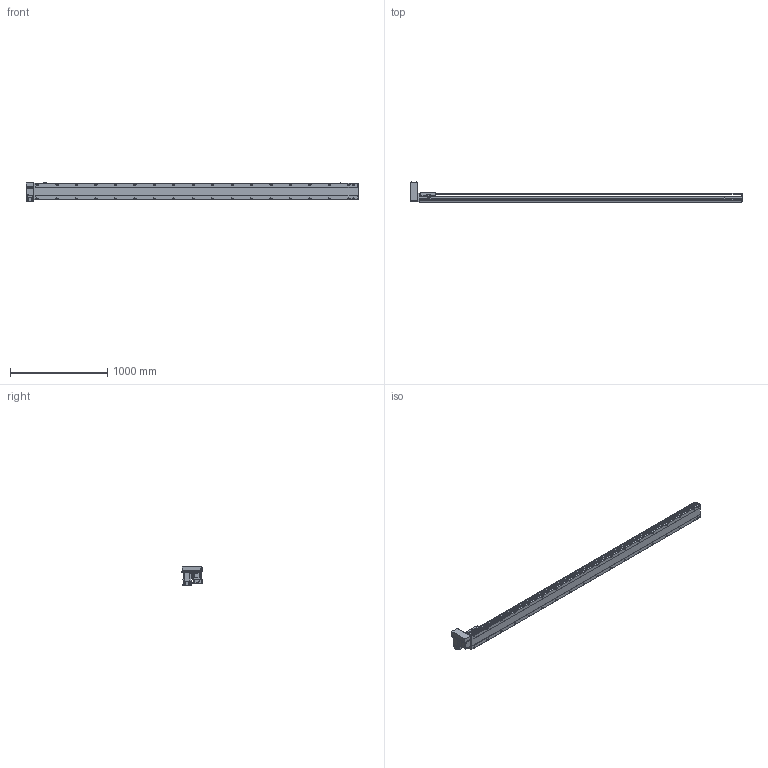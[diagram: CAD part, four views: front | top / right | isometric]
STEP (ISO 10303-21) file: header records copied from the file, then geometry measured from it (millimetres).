
FILE_DESCRIPTION(/* description */ ('STEP AP214'),/* implementation_level */ '2;1');
FILE_NAME(/* name */ 'PBS170-P40-S3050-RU-T75-C1-N(0)',/* time_stamp */ '2022-06-08T08:01:43+02:00',/* author */ ('License CC BY-ND 4.0'),/* organization */ ('CADENAS'),/* preprocessor_version */ 'ST-DEVELOPER v18.102',/* originating_system */ 'PARTsolutions',/* authorisation */ ' ');
FILE_SCHEMA (('AUTOMOTIVE_DESIGN {1 0 10303 214 3 1 1}'));
Length unit declared in the file: millimetre
Products named in the file (7): PBS170-P40-S3050-RU-T75-C1-N(0); PBS170_sensor; PBS170_plant; PBS170_sliser; T75-p1; PBS170T-RU_motors; PBS170-S3050()_body
Assembly tree (8 placements, depth 2):
  PBS170-P40-S3050-RU-T75-C1-N(0)
    PBS170_sensor  x3
    PBS170_plant
    PBS170_sliser
    T75-p1
    PBS170T-RU_motors
    PBS170-S3050()_body
Bounding box: 3413 x 206 x 205.3 mm (x, y, z)
Volume: 25594545.6 mm3; surface area: 3203559.3 mm2
Topology: 8 solids, 8 shells, 1242 faces, 3275 edges, 2134 vertices
Faces by surface type: plane 747, cylinder 419, cone 66, sphere 8, torus 2
Full cylindrical faces by diameter (mm): 3.242 x4, 4 x2, 4.4 x4, 4.5 x6, 4.917 x4, 6 x9, 6.647 x44, 7 x2, 7.5 x4, 8 x8, 8.5 x36, 10 x4, 10.5 x36, 11 x2, 30 x2, 40 x1, 70 x1
Entity records: 35698 total; most frequent: CARTESIAN_POINT 6833, DIRECTION 6000, ORIENTED_EDGE 5628, EDGE_CURVE 2814, AXIS2_PLACEMENT_3D 2137, VERTEX_POINT 1970, LINE 1726, VECTOR 1726
